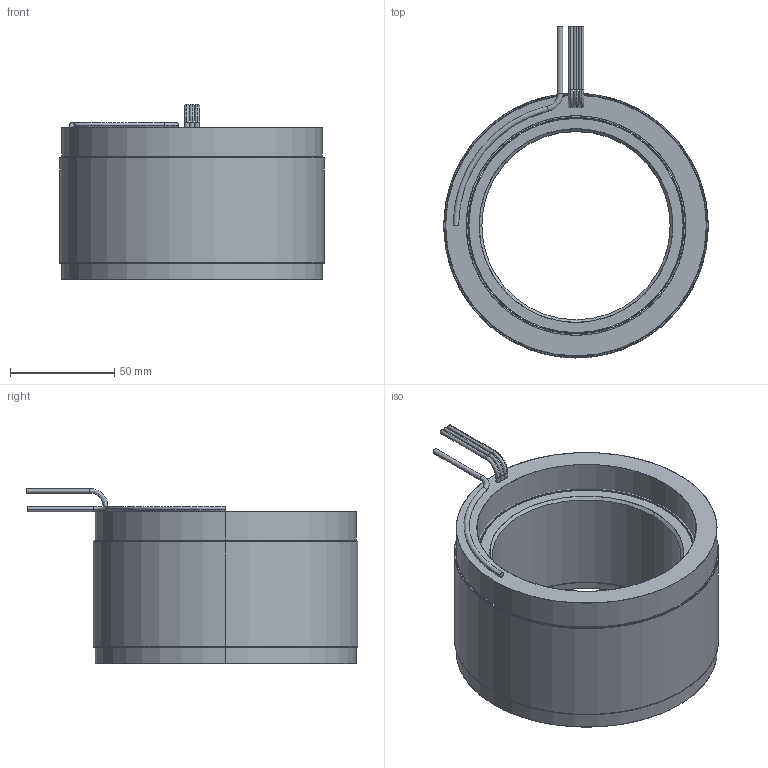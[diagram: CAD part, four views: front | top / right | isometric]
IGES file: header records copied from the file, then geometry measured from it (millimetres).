
Start section: SolidWorks IGES file using analytic representation for surfaces
Global section: file name: \\fs01.aveox.local\user documents\eng\My Documents\6100396-XX STATOR AND ROTOR SET, UT-5000-32P3, SENSORLESS\6100396-06.IGS; native system: SolidWorks 2016; preprocessor: SolidWorks 2016; author: eng; date: 201215.101110; units: inch
Bounding box: 127 x 159.26 x 84.2 mm (x, y, z)
Surface area: 174254.6 mm2 (no closed solid volume)
Topology: 0 solids, 0 shells, 75 faces, 2236 edges, 2236 vertices
Faces by surface type: revolution 46, bspline 29
